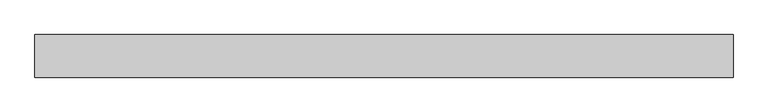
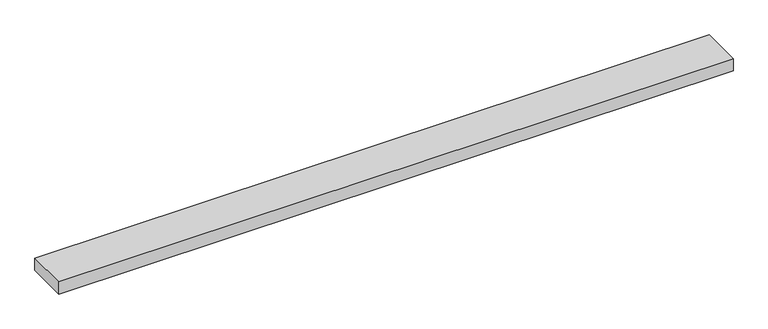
"""IFC4 building model written with IfcOpenShell, lengths in millimetres: proxy geometry, IMPRESS^TABLE 7_60x108 LOOP W CHASE-KEEL."""

import ifcopenshell
import ifcopenshell.guid

model = None  # the IFC model being written
_history = None  # IfcOwnerHistory: only IFC2X3 demands one
_inside = {}  # id of a spatial element -> (the spatial element, [elements in it])
_under = {}  # id of a project, library or spatial element -> (it, [spatial elements below it])
_declared = {}  # id of a project -> (the project, [libraries it declares])
_typed = {}  # id of a type object -> (the type object, [elements of that type])
_made_of = {}  # id of a material, layer set ... -> (it, [elements and type objects made of it])


def new_model(schema):
    """Start an empty IFC model of exactly this schema.

    Asked for "IFC4X3", IfcOpenShell would pick the latest addendum, in which some entities
    have other attributes; the version numbers below select the first issue.
    IFC2X3 requires an IfcOwnerHistory on every rooted entity: one is made here for all.
    """
    global model, _history
    if schema == "IFC4X3":
        model = ifcopenshell.file(schema_version=(4, 3, 0, 0))
    else:
        model = ifcopenshell.file(schema=schema)
    _inside.clear()
    _under.clear()
    _declared.clear()
    _typed.clear()
    _made_of.clear()
    _history = None
    if model.schema == "IFC2X3":
        org = make("IfcOrganization", Name="unknown")
        user = make(
            "IfcPersonAndOrganization",
            ThePerson=make("IfcPerson", FamilyName="unknown"),
            TheOrganization=org,
        )
        app = make(
            "IfcApplication",
            ApplicationDeveloper=org,
            Version="unknown",
            ApplicationFullName="unknown",
            ApplicationIdentifier="unknown",
        )
        _history = make(
            "IfcOwnerHistory",
            OwningUser=user,
            OwningApplication=app,
            ChangeAction="ADDED",
            CreationDate=0,
        )
    return model


def make(cls, **values):
    """One entity of the class cls with the attributes given. An attribute that is None is left unset."""
    return model.create_entity(
        cls, **{name: value for name, value in values.items() if value is not None}
    )


def rooted(cls, **values):
    """An entity with a GlobalId (a new one), such as an element, a storey or a relation."""
    return make(cls, GlobalId=ifcopenshell.guid.new(), OwnerHistory=_history, **values)


def si_unit(unit_type, name, prefix=None):
    """IfcSIUnit, for example si_unit("LENGTHUNIT", "METRE", prefix="MILLI")."""
    return make("IfcSIUnit", UnitType=unit_type, Prefix=prefix, Name=name)


def assignment(units):
    """IfcUnitAssignment: the units of a project."""
    return None if units is None else make("IfcUnitAssignment", Units=units)


def point(xyz):
    """IfcCartesianPoint."""
    return None if xyz is None else make("IfcCartesianPoint", Coordinates=xyz)


def direction(xyz):
    """IfcDirection."""
    return None if xyz is None else make("IfcDirection", DirectionRatios=xyz)


def frame(location, z_axis=None, x_axis=None):
    """IfcAxis2Placement3D, a coordinate frame: its origin and axes. An axis left out is left unset."""
    return make(
        "IfcAxis2Placement3D",
        Location=point(location),
        Axis=direction(z_axis),
        RefDirection=direction(x_axis),
    )


def origin():
    """The frame at (0, 0, 0) with its axes left unset."""
    return frame((0.0, 0.0, 0.0))


def origin_with_axes():
    """The frame at (0, 0, 0) with the z axis (0, 0, 1) and the x axis (1, 0, 0) written out."""
    return frame((0.0, 0.0, 0.0), z_axis=(0.0, 0.0, 1.0), x_axis=(1.0, 0.0, 0.0))


def place(relative_to, where):
    """IfcLocalPlacement: puts the frame where relative to a parent placement (None: the world)."""
    return make(
        "IfcLocalPlacement", PlacementRelTo=relative_to, RelativePlacement=where
    )


def context(
    kind, dimensions, precision=None, world=None, true_north=None, identifier=None
):
    """IfcGeometricRepresentationContext, for example the 3D "Model" context."""
    return make(
        "IfcGeometricRepresentationContext",
        ContextIdentifier=identifier,
        ContextType=kind,
        CoordinateSpaceDimension=dimensions,
        Precision=precision,
        WorldCoordinateSystem=world,
        TrueNorth=true_north,
    )


def project(units=None, contexts=None):
    """IfcProject with its units and contexts."""
    return rooted(
        "IfcProject",
        Name="project",
        RepresentationContexts=contexts,
        UnitsInContext=assignment(units),
    )


def spatial(cls, under=None, at=None, **own):
    """A site, building, storey or space (cls), placed at a placement, below another one or the project."""
    s = rooted(cls, ObjectPlacement=at, **own)
    if under is not None:
        _under.setdefault(under.id(), (under, []))[1].append(s)
    return s


def polyline(points):
    """IfcPolyline through the points."""
    return make("IfcPolyline", Points=[point(p) for p in points])


def outline(outer, holes=None, kind="AREA"):
    """IfcArbitraryClosedProfileDef: a profile drawn as a closed curve; with holes, ...WithVoids."""
    if holes is None:
        return make("IfcArbitraryClosedProfileDef", ProfileType=kind, OuterCurve=outer)
    return make(
        "IfcArbitraryProfileDefWithVoids",
        ProfileType=kind,
        OuterCurve=outer,
        InnerCurves=holes,
    )


def extrude(swept, where, along, depth):
    """IfcExtrudedAreaSolid: the profile swept, set in the frame where, extruded along a direction by depth."""
    return make(
        "IfcExtrudedAreaSolid",
        SweptArea=swept,
        Position=where,
        ExtrudedDirection=direction(along),
        Depth=depth,
    )


def shape(context_of_items, identifier, shape_type, items):
    """IfcShapeRepresentation: the items that make up one representation, for example the "Body"."""
    return make(
        "IfcShapeRepresentation",
        ContextOfItems=context_of_items,
        RepresentationIdentifier=identifier,
        RepresentationType=shape_type,
        Items=items,
    )


def source(mapping_origin, context_of_items, identifier, shape_type, items):
    """IfcRepresentationMap: a shape defined once, which mapped items show again and again."""
    return make(
        "IfcRepresentationMap",
        MappingOrigin=mapping_origin,
        MappedRepresentation=shape(context_of_items, identifier, shape_type, items),
    )


def transform(
    local_origin,
    x_axis=None,
    y_axis=None,
    z_axis=None,
    scale=None,
    scale2=None,
    scale3=None,
    uniform=True,
):
    """IfcCartesianTransformationOperator3D, or its non-uniform kind. x_axis, y_axis, z_axis: its Axis1, 2, 3."""
    if uniform:
        return make(
            "IfcCartesianTransformationOperator3D",
            Axis1=direction(x_axis),
            Axis2=direction(y_axis),
            LocalOrigin=point(local_origin),
            Scale=scale,
            Axis3=direction(z_axis),
        )
    return make(
        "IfcCartesianTransformationOperator3DnonUniform",
        Axis1=direction(x_axis),
        Axis2=direction(y_axis),
        LocalOrigin=point(local_origin),
        Scale=scale,
        Axis3=direction(z_axis),
        Scale2=scale2,
        Scale3=scale3,
    )


def mapped(mapping_source, mapping_target):
    """IfcMappedItem: shows the shape of a source again, moved by a transform."""
    return make(
        "IfcMappedItem", MappingSource=mapping_source, MappingTarget=mapping_target
    )


def made_of(thing, what):
    """Note that an element or type object is made of a material, layer set ...; save() writes the relation."""
    if what is not None:
        _made_of.setdefault(what.id(), (what, []))[1].append(thing)
    return thing


def element(
    cls,
    number,
    at=None,
    inside=None,
    cuts=None,
    type_object=None,
    material=None,
    context=None,
    identifier="Body",
    shape_type=None,
    held_by="IfcProductDefinitionShape",
    body=None,
    shapes=None,
    **own,
):
    """One element of the class cls, such as IfcWall. Its Tag is "e" and its number.

    at: its placement. inside: the storey or other place that contains it. cuts: it is an
    opening in that element (IfcRelVoidsElement). A single representation is given by context,
    identifier, shape_type and body (its items); several are given by shapes. held_by: the class
    of the entity that holds the representations. save() writes the other relations.
    """
    e = rooted(cls, Tag="e%d" % number, ObjectPlacement=at, **own)
    if body is not None:
        shapes = [shape(context, identifier, shape_type, body)]
    if shapes is not None:
        e.Representation = make(held_by, Representations=shapes)
    if inside is not None:
        _inside.setdefault(inside.id(), (inside, []))[1].append(e)
    if cuts is not None:
        rooted(
            "IfcRelVoidsElement", RelatingBuildingElement=cuts, RelatedOpeningElement=e
        )
    if type_object is not None:
        _typed.setdefault(type_object.id(), (type_object, []))[1].append(e)
    return made_of(e, material)


def aggregate(whole, parts):
    """IfcRelAggregates: a whole, such as a stair, and the parts it consists of."""
    return rooted("IfcRelAggregates", RelatingObject=whole, RelatedObjects=parts)


def save(model, path):
    """Write the relations noted so far, then the file.

    IfcRelAggregates (storeys below a building ...), IfcRelContainedInSpatialStructure (elements
    in a storey), IfcRelDefinesByType, IfcRelAssociatesMaterial and IfcRelDeclares: one each for
    every whole, place, type object, material and project.
    """
    for whole, parts in _under.values():
        aggregate(whole, parts)
    for where, things in _inside.values():
        rooted(
            "IfcRelContainedInSpatialStructure",
            RelatedElements=things,
            RelatingStructure=where,
        )
    for kind, things in _typed.values():
        rooted("IfcRelDefinesByType", RelatedObjects=things, RelatingType=kind)
    for what, things in _made_of.values():
        rooted("IfcRelAssociatesMaterial", RelatedObjects=things, RelatingMaterial=what)
    for by, libraries in _declared.values():
        rooted("IfcRelDeclares", RelatingContext=by, RelatedDefinitions=libraries)
    model.write(path)


def generic_models_db46a843(model_context):
    return source(origin(), model_context, "Body", "SweptSolid", [
        extrude(outline(polyline([(1663.7, 101.6), (1663.7, 0.0), (0.0, 0.0), (0.0, 101.6), (1663.7, 101.6)])), origin_with_axes(), (0.0, 0.0, 1.0), 31.75),
    ])


if __name__ == "__main__":
    model = new_model("IFC4")
    model_context = context("Model", 3, world=origin())
    ifc_project = project(units=[si_unit("LENGTHUNIT", "METRE", prefix="MILLI")], contexts=[model_context])
    site = spatial("IfcSite", under=ifc_project)
    building = spatial("IfcBuilding", under=site)
    placement = place(None, origin())
    generic_models_shape = generic_models_db46a843(model_context)
    element("IfcBuildingElementProxy", 1, Name="IMPRESS^TABLE 7_60x108 LOOP W CHASE-KEEL", ObjectType="IMPRESS^TABLE 7_60x108 LOOP W CHASE-KEEL", at=placement, inside=building, context=model_context, shape_type="MappedRepresentation", body=[
        mapped(generic_models_shape, transform((0.0, 0.0, 0.0), x_axis=(1.0, 0.0, 0.0), y_axis=(0.0, 1.0, 0.0), z_axis=(0.0, 0.0, 1.0))),
    ])
    save(model, "model.ifc")
